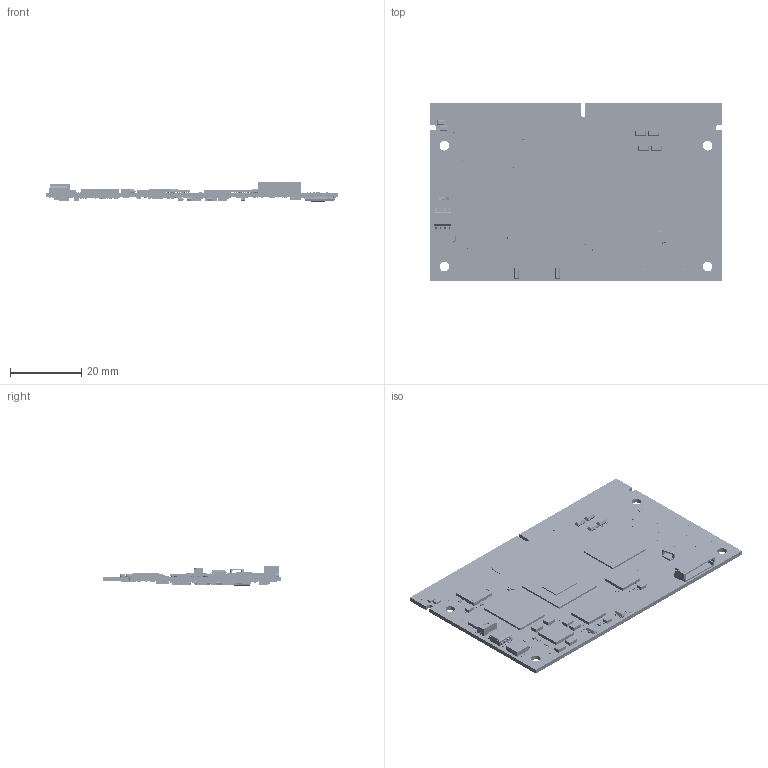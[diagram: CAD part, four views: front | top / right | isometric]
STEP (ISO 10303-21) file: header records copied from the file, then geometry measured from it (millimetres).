
FILE_DESCRIPTION(('Open CASCADE Model'),'2;1');
FILE_NAME('Open CASCADE Shape Model','2026-04-02T14:48:17',('Author'),( 'Open CASCADE'),'Open CASCADE STEP processor 7.5','Open CASCADE 7.5' ,'Unknown');
FILE_SCHEMA(('AUTOMOTIVE_DESIGN { 1 0 10303 214 1 1 1 1 }'));
Length unit declared in the file: millimetre
Products named in the file (679): PCB; Board; Open CASCADE STEP translator 7.5 3.1.1; R131; User Library-User Library-RES0201; U22; 8429868464; 8715001280; Extruded; U21; R130; R127; R126; R124; R123; U20; DCK0005A; BODY-SOT; LEAD-SOT; PIN1-ID; U19; 8429868848; 8715002384; U18; U15; R122; R121; R120; R119; R118; Q10; 8429869040; Q9; 8429873456; Q8; Q7; 8429870000; Q2; Q1; 8429869808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
Assembly tree (1911 placements, depth 4):
  PCB
    Board
      Open CASCADE STEP translator 7.5 3.1.1
    R131
      User Library-User Library-RES0201
    U22
      8429868464
      8715001280
        Extruded
    U21
      8429868464
      8715001280
        Extruded
    R130
      User Library-User Library-RES0201
    R127
      User Library-User Library-RES0201
    R126
      User Library-User Library-RES0201
    R124
      User Library-User Library-RES0201
    R123
      User Library-User Library-RES0201
    U20
      DCK0005A
        BODY-SOT
        LEAD-SOT  x5
        PIN1-ID
    U19
      8429868848
      8715002384
        Extruded
    U18
      DCK0005A
        BODY-SOT
        LEAD-SOT  x5
        PIN1-ID
    U15
      8429868848
      8715002384
        Extruded
    R122
      User Library-User Library-RES0201
    R121
      User Library-User Library-RES0201
    R120
      User Library-User Library-RES0201
    R119
      User Library-User Library-RES0201
    R118
      User Library-User Library-RES0201
    Q10
      8429869040
    Q9
      8429873456
    Q8
      8429873456
    Q7
      8429870000
    Q2
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Bounding box: 82 x 50 x 5.42 mm (x, y, z)
Volume: 6010.4 mm3; surface area: 13499.7 mm2
Topology: 1915 solids, 2926 shells, 55347 faces, 138315 edges, 86777 vertices
Faces by surface type: plane 38146, cylinder 7931, bspline 7193, sphere 1793, revolution 284
Full cylindrical faces by diameter (mm): 0.201 x1, 0.353 x2, 0.392 x2, 0.438 x200, 0.875 x1, 1.438 x1, 2.7 x4
Entity records: 242049 total; most frequent: CARTESIAN_POINT 54266, DIRECTION 32375, ORIENTED_EDGE 29628, EDGE_CURVE 15526, LINE 11569, VECTOR 11569, AXIS2_PLACEMENT_3D 10302, VERTEX_POINT 9404
